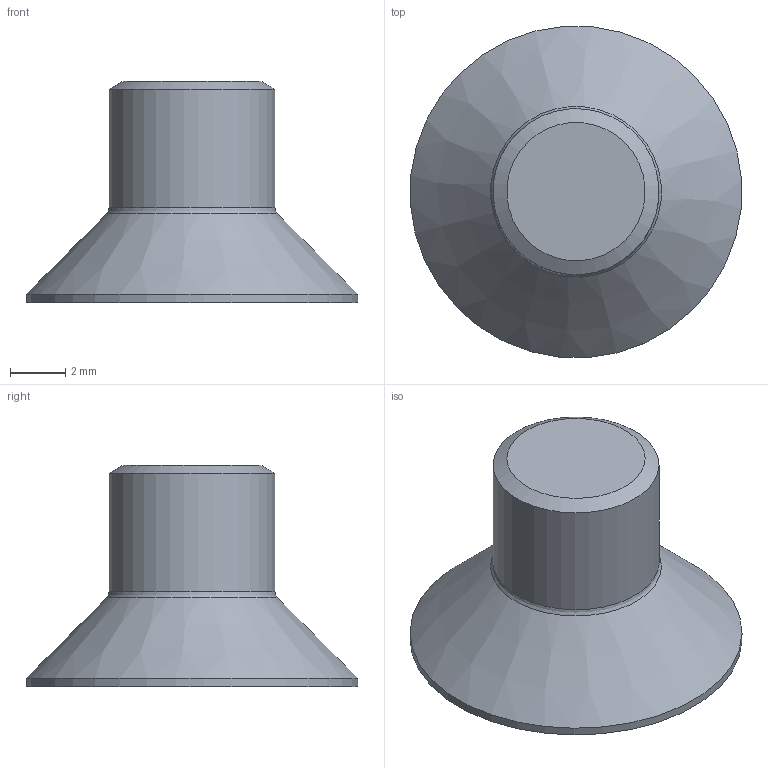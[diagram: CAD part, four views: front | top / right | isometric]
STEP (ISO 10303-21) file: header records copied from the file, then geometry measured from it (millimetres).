
FILE_DESCRIPTION((''),'2;1');
FILE_NAME('C:\Uebbing\PARAMETERKETTEN\PFR\PFR 221\Imbusschraube M6x5 Senkkopf.stp','2012-03-30T08:16:01',('Uebbing'),(''),'Autodesk Inventor 10','Autodesk Inventor 10','');
FILE_SCHEMA(('AUTOMOTIVE_DESIGN { 1 0 10303 214 1 1 1 1 }'));
Length unit declared in the file: millimetre
Products named in the file (1): Imbusschraube M6x5 Senkkopf
Bounding box: 11.97 x 11.97 x 8 mm (x, y, z)
Volume: 328.8 mm3; surface area: 391.5 mm2
Topology: 1 solids, 1 shells, 14 faces, 30 edges, 19 vertices
Faces by surface type: plane 9, cone 2, cylinder 2, bspline 1
Full cylindrical faces by diameter (mm): 6 x1, 12 x1
Entity records: 405 total; most frequent: CARTESIAN_POINT 101, DIRECTION 58, ORIENTED_EDGE 48, EDGE_CURVE 24, AXIS2_PLACEMENT_3D 20, EDGE_LOOP 20, VERTEX_POINT 18, VECTOR 18
